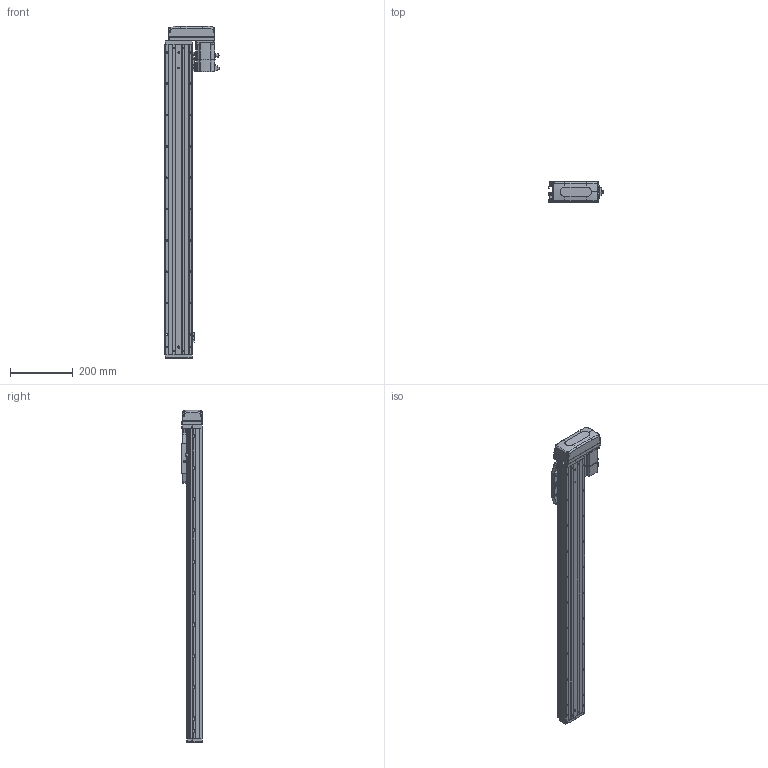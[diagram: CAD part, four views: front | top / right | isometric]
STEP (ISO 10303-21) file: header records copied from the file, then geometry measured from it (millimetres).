
FILE_DESCRIPTION (( 'STEP AP203' ), '1' );
FILE_NAME ('CTHA86-800-BL-M20-C4L.step', '2022-04-26T00:52:33', ( '微软用户' ), ( '微软中国' ), 'SwSTEP 2.0', 'SolidWorks 2020', '' );
FILE_SCHEMA (( 'CONFIG_CONTROL_DESIGN' ));
Length unit declared in the file: millimetre
Products named in the file (21): KTHA86-005; GBT70.1 M5℅16; CTHA86-030; GB¨uT 70.2-M3¡Á5_M3¡Á6; GBT 70.1-M3×16; GBT 70.3-M3℅6; EE_SX911P_R; GBT 70.1-M3℅6; CTHA86-015-1_CTHA86-015-2; CTHA60-017; CTHA60-016; CTHA86-033; CTHA60-021; _X2_4E0983F1_X0_200W_1; CTHA86-800-BL-M20-C4L; KTHA86-001_990; GBT77-2000 M3×3; CTHA86-002; KTHA86-004; GBT 70.1-M3×20; CTHA86-031
Assembly tree (66 placements, depth 2):
  CTHA86-800-BL-M20-C4L
    KTHA86-001_990
    KTHA86-004
    KTHA86-005
    GB¨uT 70.2-M3¡Á5_M3¡Á6  x10
    EE_SX911P_R  x3
    CTHA60-017  x3
    CTHA60-021  x2
    GBT77-2000 M3×3  x6
    GBT 70.1-M3×20
    GBT70.1 M5℅16  x14
    GBT 70.1-M3×16  x5
    GBT 70.1-M3℅6  x6
    CTHA60-016  x2
    _X2_4E0983F1_X0_200W_1
    CTHA86-002
    CTHA86-031
    CTHA86-030  x2
    GBT 70.3-M3℅6  x4
    CTHA86-015-1_CTHA86-015-2
    CTHA86-033
Bounding box: 172.7 x 68 x 1059 mm (x, y, z)
Volume: 4037595.2 mm3; surface area: 692323.4 mm2
Topology: 68 solids, 68 shells, 2826 faces, 6764 edges, 4168 vertices
Faces by surface type: plane 1487, cylinder 735, cone 373, torus 132, bspline 75, sphere 24
Entity records: 50373 total; most frequent: CARTESIAN_POINT 9731, DIRECTION 7849, ORIENTED_EDGE 7628, EDGE_CURVE 3814, AXIS2_PLACEMENT_3D 2670, LINE 2509, VECTOR 2509, VERTEX_POINT 2400
